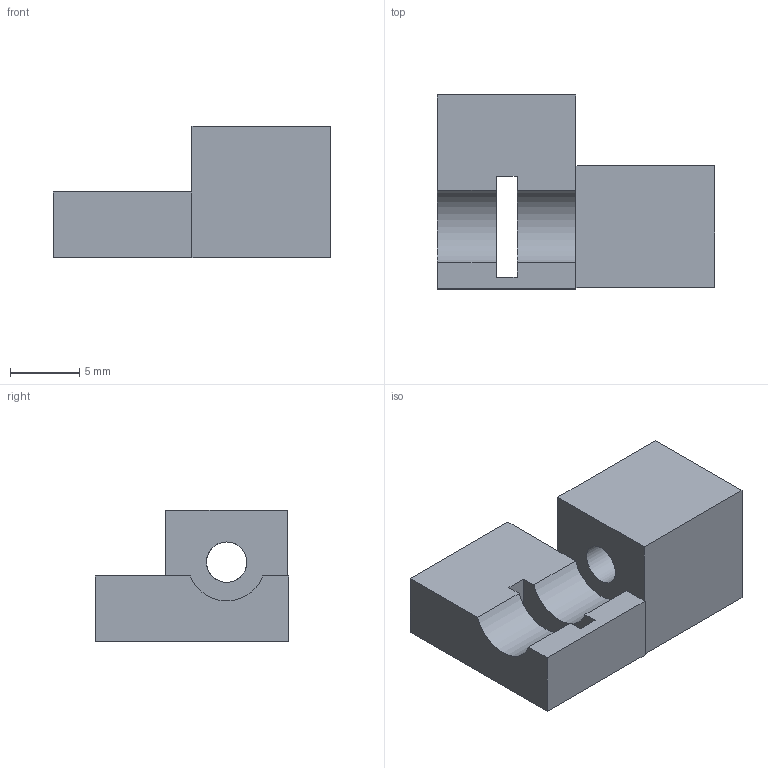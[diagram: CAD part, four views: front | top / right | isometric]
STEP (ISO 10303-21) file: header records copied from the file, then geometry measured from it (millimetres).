
FILE_DESCRIPTION(('FreeCAD Model'),'2;1');
FILE_NAME('/home/ricardo/FreeCAD/myPrinter/FreeCAD/y_belt_v2.step', '2015-01-03T07:08:18',('Author'),(''), 'Open CASCADE STEP processor 6.7','FreeCAD','Unknown');
FILE_SCHEMA(('AUTOMOTIVE_DESIGN_CC2 { 1 2 10303 214 -1 1 5 4 }'));
Length unit declared in the file: millimetre
Products named in the file (1): Pocket004
Bounding box: 20 x 14 x 9.5 mm (x, y, z)
Volume: 1323.9 mm3; surface area: 1096.9 mm2
Topology: 1 solids, 1 shells, 20 faces, 61 edges, 42 vertices
Faces by surface type: plane 17, cylinder 3
Full cylindrical faces by diameter (mm): 2.92 x1
Entity records: 1500 total; most frequent: CARTESIAN_POINT 302, DIRECTION 206, LINE 133, VECTOR 133, ORIENTED_EDGE 122, PCURVE 122, DEFINITIONAL_REPRESENTATION 122, EDGE_CURVE 61
